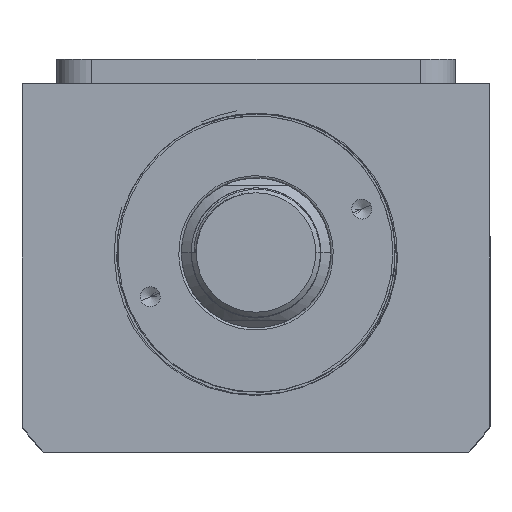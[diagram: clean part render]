
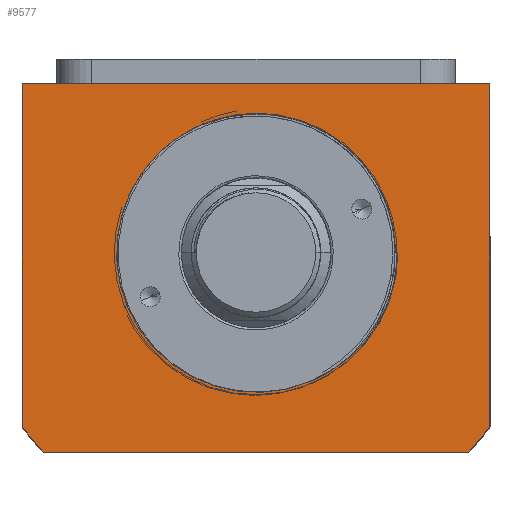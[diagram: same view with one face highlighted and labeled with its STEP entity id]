
A CAD part, top view. The second image highlights one B-rep face of the part: STEP entity #9577.
In plain terms, the highlighted planar face has unit normal (0, 0, 1).
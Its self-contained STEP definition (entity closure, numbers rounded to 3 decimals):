
#935 = FACE_OUTER_BOUND ( 'NONE', #17654, .T. ) ;
#992 = CARTESIAN_POINT ( 'NONE',  ( 19.714, -20.129, 47.5 ) ) ;
#1193 = CARTESIAN_POINT ( 'NONE',  ( 12.831, -24.945, 47.5 ) ) ;
#1256 = VERTEX_POINT ( 'NONE', #7020 ) ;
#1340 = VERTEX_POINT ( 'NONE', #16003 ) ;
#1364 = EDGE_CURVE ( 'NONE', #14566, #3278, #8113, .T. ) ;
#1500 = DIRECTION ( 'NONE',  ( 1., 0., 0. ) ) ;
#1940 = ORIENTED_EDGE ( 'NONE', *, *, #8378, .T. ) ;
#2446 = CARTESIAN_POINT ( 'NONE',  ( 16.467, -22.819, 47.5 ) ) ;
#2578 = CARTESIAN_POINT ( 'NONE',  ( 10.89, -25.816, 47.5 ) ) ;
#2629 = AXIS2_PLACEMENT_3D ( 'NONE', #7223, #5845, #13202 ) ;
#2654 = CARTESIAN_POINT ( 'NONE',  ( 24.178, -14.712, 47.5 ) ) ;
#3278 = VERTEX_POINT ( 'NONE', #14185 ) ;
#3460 = EDGE_CURVE ( 'NONE', #11462, #14201, #19429, .T. ) ;
#3619 = EDGE_CURVE ( 'NONE', #1340, #13868, #19166, .T. ) ;
#4143 = CARTESIAN_POINT ( 'NONE',  ( 24.898, -13.504, 47.5 ) ) ;
#4246 = DIRECTION ( 'NONE',  ( 0., 0., -1. ) ) ;
#4443 = CARTESIAN_POINT ( 'NONE',  ( 0., 0., 47.5 ) ) ;
#4528 = ORIENTED_EDGE ( 'NONE', *, *, #16174, .T. ) ;
#4981 = ORIENTED_EDGE ( 'NONE', *, *, #1364, .T. ) ;
#5202 = DIRECTION ( 'NONE',  ( 1., 0., 0. ) ) ;
#5415 = VECTOR ( 'NONE', #19291, 1000. ) ;
#5462 = CARTESIAN_POINT ( 'NONE',  ( 20.224, -19.631, 47.5 ) ) ;
#5596 = CARTESIAN_POINT ( 'NONE',  ( 28.495, 0., 47.5 ) ) ;
#5610 = EDGE_CURVE ( 'NONE', #16585, #14566, #16451, .T. ) ;
#5845 = DIRECTION ( 'NONE',  ( 0., 0., 1. ) ) ;
#6372 = LINE ( 'NONE', #8285, #13362 ) ;
#6781 = DIRECTION ( 'NONE',  ( -1., 0., 0. ) ) ;
#6903 = ORIENTED_EDGE ( 'NONE', *, *, #7154, .T. ) ;
#7020 = CARTESIAN_POINT ( 'NONE',  ( 47., -34.832, 47.5 ) ) ;
#7099 = CARTESIAN_POINT ( 'NONE',  ( 13.459, -24.624, 47.5 ) ) ;
#7154 = EDGE_CURVE ( 'NONE', #16263, #13868, #8957, .T. ) ;
#7223 = CARTESIAN_POINT ( 'NONE',  ( 0., 0., 47.5 ) ) ;
#7959 = DIRECTION ( 'NONE',  ( 1., 0., 0. ) ) ;
#8113 = LINE ( 'NONE', #17797, #5415 ) ;
#8137 = CARTESIAN_POINT ( 'NONE',  ( 47., 34., 47.5 ) ) ;
#8278 = CARTESIAN_POINT ( 'NONE',  ( 0., 0., 47.5 ) ) ;
#8285 = CARTESIAN_POINT ( 'NONE',  ( 47., 34., 47.5 ) ) ;
#8371 = CARTESIAN_POINT ( 'NONE',  ( -47., 34., 47.5 ) ) ;
#8378 = EDGE_CURVE ( 'NONE', #1256, #16585, #6372, .T. ) ;
#8463 = CARTESIAN_POINT ( 'NONE',  ( 18.667, -21.077, 47.5 ) ) ;
#8604 = CARTESIAN_POINT ( 'NONE',  ( 27.887, -5.628, 47.5 ) ) ;
#8672 = CARTESIAN_POINT ( 'NONE',  ( 28.485, -0.71, 47.5 ) ) ;
#8957 = CIRCLE ( 'NONE', #9354, 28. ) ;
#9112 = AXIS2_PLACEMENT_3D ( 'NONE', #4443, #17980, #1500 ) ;
#9305 = FACE_BOUND ( 'NONE', #15481, .T. ) ;
#9354 = AXIS2_PLACEMENT_3D ( 'NONE', #14700, #4246, #13194 ) ;
#9577 = ADVANCED_FACE ( 'NONE', ( #9305, #935 ), #13385, .T. ) ;
#9974 = CARTESIAN_POINT ( 'NONE',  ( 15.3, -23.593, 47.5 ) ) ;
#10113 = ORIENTED_EDGE ( 'NONE', *, *, #5610, .T. ) ;
#10174 = CARTESIAN_POINT ( 'NONE',  ( 18.129, -21.529, 47.5 ) ) ;
#10294 = VECTOR ( 'NONE', #6781, 1000. ) ;
#11393 = CARTESIAN_POINT ( 'NONE',  ( 26.694, -9.657, 47.5 ) ) ;
#11462 = VERTEX_POINT ( 'NONE', #14433 ) ;
#11515 = CARTESIAN_POINT ( 'NONE',  ( 28.233, -3.538, 47.5 ) ) ;
#11655 = CARTESIAN_POINT ( 'NONE',  ( 27.555, -6.99, 47.5 ) ) ;
#11745 = ORIENTED_EDGE ( 'NONE', *, *, #16586, .T. ) ;
#11831 = CARTESIAN_POINT ( 'NONE',  ( 42.688, -40., 47.5 ) ) ;
#12178 = VECTOR ( 'NONE', #5202, 1000. ) ;
#12953 = CARTESIAN_POINT ( 'NONE',  ( 10.232, -26.064, 47.5 ) ) ;
#13082 = CARTESIAN_POINT ( 'NONE',  ( 22.571, -17.007, 47.5 ) ) ;
#13097 = ORIENTED_EDGE ( 'NONE', *, *, #3619, .F. ) ;
#13194 = DIRECTION ( 'NONE',  ( 1., 0., 0. ) ) ;
#13202 = DIRECTION ( 'NONE',  ( 1., 0., 0. ) ) ;
#13362 = VECTOR ( 'NONE', #13962, 1000. ) ;
#13385 = PLANE ( 'NONE',  #9112 ) ;
#13452 = ORIENTED_EDGE ( 'NONE', *, *, #3460, .T. ) ;
#13480 = CARTESIAN_POINT ( 'NONE',  ( 10.232, -26.064, 47.5 ) ) ;
#13868 = VERTEX_POINT ( 'NONE', #16001 ) ;
#13962 = DIRECTION ( 'NONE',  ( 0., 1., 0. ) ) ;
#14061 = CARTESIAN_POINT ( 'NONE',  ( 0., 0., 47.5 ) ) ;
#14137 = B_SPLINE_CURVE_WITH_KNOTS ( 'NONE', 3,
 ( #5596, #8672, #17536, #16014, #11515, #8604, #11655, #11393, #14657, #4143, #2654, #13082, #19034, #5462, #992, #8463, #10174, #2446, #9974, #7099, #1193, #17400, #2578, #12953 ),
 .UNSPECIFIED., .F., .F.,
 ( 4, 2, 2, 2, 2, 2, 2, 2, 2, 2, 2, 4 ),
 ( 0., 0.002, 0.004, 0.009, 0.013, 0.017, 0.021, 0.023, 0.026, 0.03, 0.032, 0.034 ),
 .UNSPECIFIED. ) ;
#14183 = EDGE_CURVE ( 'NONE', #3278, #11462, #15700, .T. ) ;
#14185 = CARTESIAN_POINT ( 'NONE',  ( -47., -34.832, 47.5 ) ) ;
#14201 = VERTEX_POINT ( 'NONE', #11831 ) ;
#14433 = CARTESIAN_POINT ( 'NONE',  ( -42.688, -40., 47.5 ) ) ;
#14566 = VERTEX_POINT ( 'NONE', #8371 ) ;
#14657 = CARTESIAN_POINT ( 'NONE',  ( 26.163, -10.961, 47.5 ) ) ;
#14700 = CARTESIAN_POINT ( 'NONE',  ( 0., 0., 47.5 ) ) ;
#15236 = DIRECTION ( 'NONE',  ( -1., 0., 0. ) ) ;
#15481 = EDGE_LOOP ( 'NONE', ( #13097, #4528, #6903 ) ) ;
#15664 = CIRCLE ( 'NONE', #17157, 58.5 ) ;
#15700 = CIRCLE ( 'NONE', #2629, 58.5 ) ;
#15783 = ORIENTED_EDGE ( 'NONE', *, *, #14183, .T. ) ;
#15877 = DIRECTION ( 'NONE',  ( 0., 0., 1. ) ) ;
#16001 = CARTESIAN_POINT ( 'NONE',  ( 28., 0., 47.5 ) ) ;
#16003 = CARTESIAN_POINT ( 'NONE',  ( 28.495, 0., 47.5 ) ) ;
#16014 = CARTESIAN_POINT ( 'NONE',  ( 28.323, -2.832, 47.5 ) ) ;
#16174 = EDGE_CURVE ( 'NONE', #1340, #16263, #14137, .T. ) ;
#16263 = VERTEX_POINT ( 'NONE', #13480 ) ;
#16451 = LINE ( 'NONE', #16587, #19017 ) ;
#16585 = VERTEX_POINT ( 'NONE', #8137 ) ;
#16586 = EDGE_CURVE ( 'NONE', #14201, #1256, #15664, .T. ) ;
#16587 = CARTESIAN_POINT ( 'NONE',  ( -47., 34., 47.5 ) ) ;
#16837 = CARTESIAN_POINT ( 'NONE',  ( 42.688, -40., 47.5 ) ) ;
#17157 = AXIS2_PLACEMENT_3D ( 'NONE', #14061, #15877, #7959 ) ;
#17400 = CARTESIAN_POINT ( 'NONE',  ( 11.542, -25.544, 47.5 ) ) ;
#17536 = CARTESIAN_POINT ( 'NONE',  ( 28.449, -1.419, 47.5 ) ) ;
#17654 = EDGE_LOOP ( 'NONE', ( #10113, #4981, #15783, #13452, #11745, #1940 ) ) ;
#17797 = CARTESIAN_POINT ( 'NONE',  ( -47., -34.832, 47.5 ) ) ;
#17980 = DIRECTION ( 'NONE',  ( 0., 0., 1. ) ) ;
#19017 = VECTOR ( 'NONE', #15236, 1000. ) ;
#19034 = CARTESIAN_POINT ( 'NONE',  ( 21.684, -18.094, 47.5 ) ) ;
#19166 = LINE ( 'NONE', #8278, #10294 ) ;
#19291 = DIRECTION ( 'NONE',  ( 0., -1., 0. ) ) ;
#19429 = LINE ( 'NONE', #16837, #12178 ) ;
